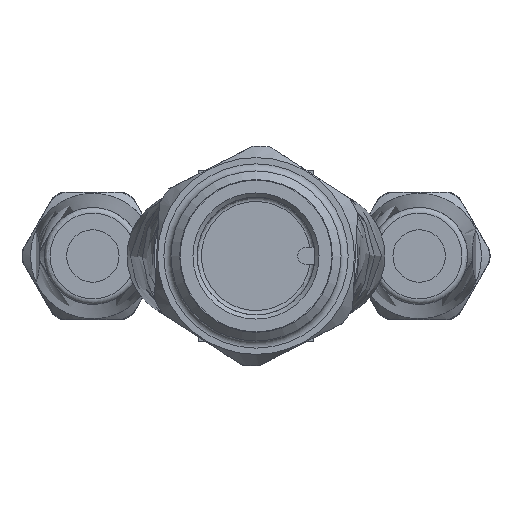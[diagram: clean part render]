
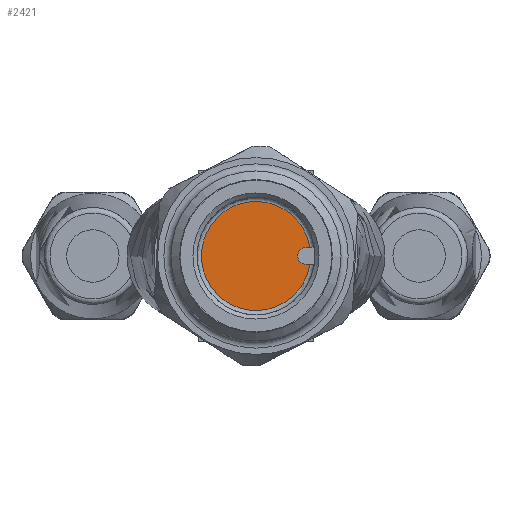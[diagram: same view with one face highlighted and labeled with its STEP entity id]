
A CAD part, left-side view. The second image highlights one B-rep face of the part: STEP entity #2421.
In plain terms, the highlighted planar face has unit normal (-1, 0, 0).
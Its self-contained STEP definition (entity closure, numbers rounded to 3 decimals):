
#48=PLANE('',#2564);
#236=CIRCLE('',#2534,3.85);
#255=CIRCLE('',#2565,0.6);
#391=ORIENTED_EDGE('',*,*,#827,.F.);
#392=ORIENTED_EDGE('',*,*,#869,.F.);
#393=ORIENTED_EDGE('',*,*,#870,.F.);
#394=ORIENTED_EDGE('',*,*,#871,.F.);
#827=EDGE_CURVE('',#1068,#1070,#236,.T.);
#869=EDGE_CURVE('',#1105,#1068,#1241,.T.);
#870=EDGE_CURVE('',#1106,#1105,#255,.F.);
#871=EDGE_CURVE('',#1070,#1106,#1242,.T.);
#1068=VERTEX_POINT('',#3351);
#1070=VERTEX_POINT('',#3354);
#1105=VERTEX_POINT('',#3476);
#1106=VERTEX_POINT('',#3478);
#1241=LINE('',#3475,#1297);
#1242=LINE('',#3479,#1298);
#1297=VECTOR('',#2827,1000.);
#1298=VECTOR('',#2830,1000.);
#1354=EDGE_LOOP('',(#391,#392,#393,#394));
#1501=FACE_BOUND('',#1354,.T.);
#2421=ADVANCED_FACE('',(#1501),#48,.F.);
#2534=AXIS2_PLACEMENT_3D('',#3353,#2753,#2754);
#2564=AXIS2_PLACEMENT_3D('',#3474,#2825,#2826);
#2565=AXIS2_PLACEMENT_3D('',#3477,#2828,#2829);
#2753=DIRECTION('',(1.,0.,0.));
#2754=DIRECTION('',(0.,0.,-1.));
#2825=DIRECTION('',(1.,0.,0.));
#2826=DIRECTION('',(0.,0.,-1.));
#2827=DIRECTION('',(0.,-1.,0.));
#2828=DIRECTION('',(1.,0.,0.));
#2829=DIRECTION('',(0.,0.,-1.));
#2830=DIRECTION('',(0.,1.,0.));
#3351=CARTESIAN_POINT('',(10.1,-3.803,-0.6));
#3353=CARTESIAN_POINT('',(10.1,0.,0.));
#3354=CARTESIAN_POINT('',(10.1,-3.803,0.6));
#3474=CARTESIAN_POINT('',(10.1,0.,0.));
#3475=CARTESIAN_POINT('',(10.1,0.,-0.6));
#3476=CARTESIAN_POINT('',(10.1,-3.55,-0.6));
#3477=CARTESIAN_POINT('',(10.1,-3.55,0.));
#3478=CARTESIAN_POINT('',(10.1,-3.55,0.6));
#3479=CARTESIAN_POINT('',(10.1,0.,0.6));
